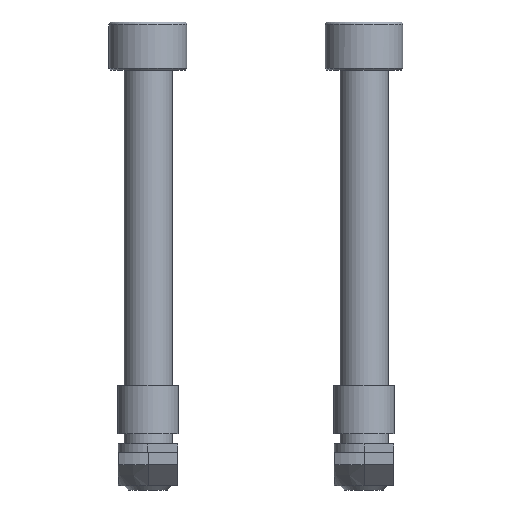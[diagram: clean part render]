
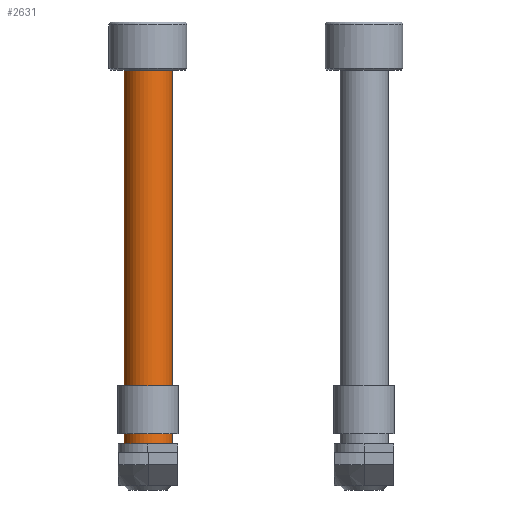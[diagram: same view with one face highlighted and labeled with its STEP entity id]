
A CAD part, front view. The second image highlights one B-rep face of the part: STEP entity #2631.
In plain terms, the highlighted cylindrical face has radius 4 mm (diameter 8 mm), a partial arc.
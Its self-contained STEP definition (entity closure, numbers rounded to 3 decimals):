
#15 = VECTOR ( 'NONE', #773, 1000. ) ;
#32 = DIRECTION ( 'NONE',  ( 1., 0., 0. ) ) ;
#98 = EDGE_LOOP ( 'NONE', ( #1980, #1731, #1960, #2109 ) ) ;
#110 = EDGE_CURVE ( 'NONE', #1764, #1387, #2942, .T. ) ;
#157 = LINE ( 'NONE', #2838, #15 ) ;
#257 = AXIS2_PLACEMENT_3D ( 'NONE', #506, #2774, #713 ) ;
#425 = EDGE_CURVE ( 'NONE', #2608, #1764, #157, .T. ) ;
#506 = CARTESIAN_POINT ( 'NONE',  ( 0., 0., -70. ) ) ;
#539 = DIRECTION ( 'NONE',  ( 0., 0., 1. ) ) ;
#573 = CYLINDRICAL_SURFACE ( 'NONE', #257, 4. ) ;
#713 = DIRECTION ( 'NONE',  ( 1., 0., 0. ) ) ;
#773 = DIRECTION ( 'NONE',  ( 0., 0., 1. ) ) ;
#1026 = DIRECTION ( 'NONE',  ( -1., 0., 0. ) ) ;
#1102 = AXIS2_PLACEMENT_3D ( 'NONE', #1254, #2617, #1026 ) ;
#1186 = CIRCLE ( 'NONE', #1102, 4. ) ;
#1249 = EDGE_CURVE ( 'NONE', #1648, #2608, #1186, .T. ) ;
#1254 = CARTESIAN_POINT ( 'NONE',  ( 0., 0., -62.3 ) ) ;
#1281 = CARTESIAN_POINT ( 'NONE',  ( 4., 0., 0. ) ) ;
#1321 = FACE_OUTER_BOUND ( 'NONE', #98, .T. ) ;
#1387 = VERTEX_POINT ( 'NONE', #1281 ) ;
#1411 = CARTESIAN_POINT ( 'NONE',  ( -4., 0., 0. ) ) ;
#1486 = AXIS2_PLACEMENT_3D ( 'NONE', #1846, #1620, #32 ) ;
#1620 = DIRECTION ( 'NONE',  ( 0., 0., 1. ) ) ;
#1648 = VERTEX_POINT ( 'NONE', #2931 ) ;
#1731 = ORIENTED_EDGE ( 'NONE', *, *, #1249, .F. ) ;
#1764 = VERTEX_POINT ( 'NONE', #1411 ) ;
#1846 = CARTESIAN_POINT ( 'NONE',  ( 0., 0., 0. ) ) ;
#1913 = CARTESIAN_POINT ( 'NONE',  ( 4., 0., -70. ) ) ;
#1932 = VECTOR ( 'NONE', #539, 1000. ) ;
#1960 = ORIENTED_EDGE ( 'NONE', *, *, #2026, .T. ) ;
#1980 = ORIENTED_EDGE ( 'NONE', *, *, #425, .F. ) ;
#1997 = LINE ( 'NONE', #1913, #1932 ) ;
#2026 = EDGE_CURVE ( 'NONE', #1648, #1387, #1997, .T. ) ;
#2109 = ORIENTED_EDGE ( 'NONE', *, *, #110, .F. ) ;
#2400 = CARTESIAN_POINT ( 'NONE',  ( -4., 0., -62.3 ) ) ;
#2608 = VERTEX_POINT ( 'NONE', #2400 ) ;
#2617 = DIRECTION ( 'NONE',  ( 0., 0., -1. ) ) ;
#2631 = ADVANCED_FACE ( 'NONE', ( #1321 ), #573, .T. ) ;
#2774 = DIRECTION ( 'NONE',  ( 0., 0., 1. ) ) ;
#2838 = CARTESIAN_POINT ( 'NONE',  ( -4., 0., -70. ) ) ;
#2931 = CARTESIAN_POINT ( 'NONE',  ( 4., 0., -62.3 ) ) ;
#2942 = CIRCLE ( 'NONE', #1486, 4. ) ;
